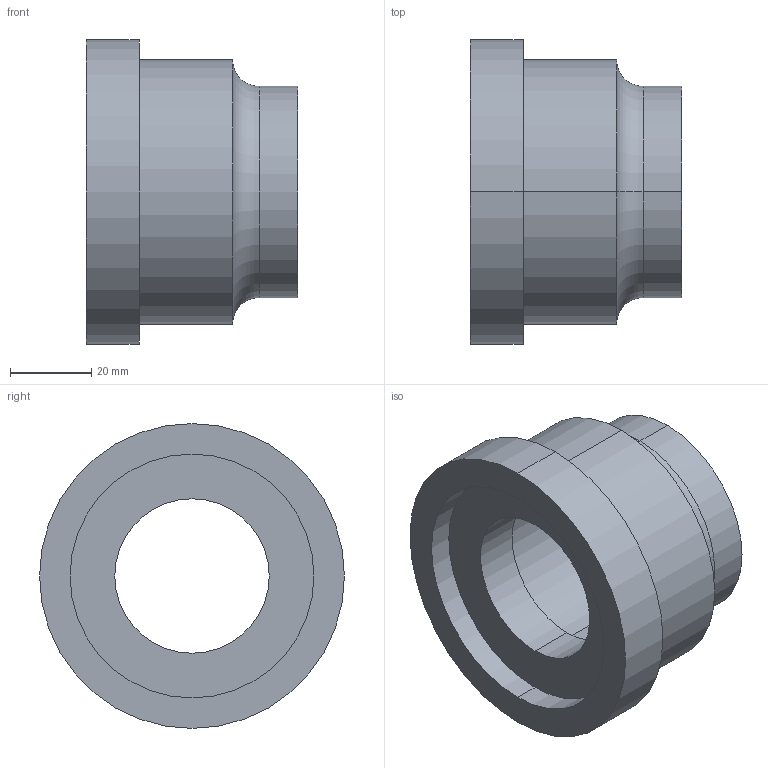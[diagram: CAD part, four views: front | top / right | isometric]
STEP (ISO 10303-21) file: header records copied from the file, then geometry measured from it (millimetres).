
FILE_DESCRIPTION (( 'STEP AP203' ), '1' );
FILE_NAME ('1 1-2(1 5-8銅管用).STEP', '2014-07-14T08:50:00', ( 'jameswang' ), ( '' ), 'SwSTEP 2.0', 'SolidWorks 2013', '' );
FILE_SCHEMA (( 'CONFIG_CONTROL_DESIGN' ));
Length unit declared in the file: millimetre
Products named in the file (1): 1 1-2(1 5-8銅管用)
Bounding box: 52 x 75 x 75 mm (x, y, z)
Volume: 91954.6 mm3; surface area: 23304.4 mm2
Topology: 1 solids, 1 shells, 23 faces, 46 edges, 28 vertices
Faces by surface type: cylinder 12, plane 5, torus 4, cone 2
Entity records: 689 total; most frequent: DIRECTION 126, CARTESIAN_POINT 98, ORIENTED_EDGE 92, AXIS2_PLACEMENT_3D 56, EDGE_CURVE 46, CIRCLE 32, EDGE_LOOP 28, VERTEX_POINT 28
